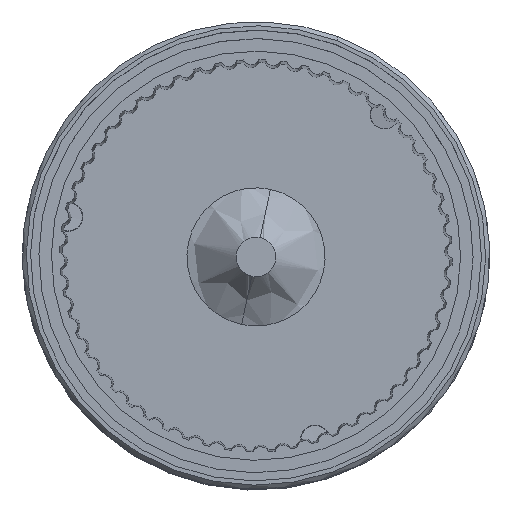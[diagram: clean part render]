
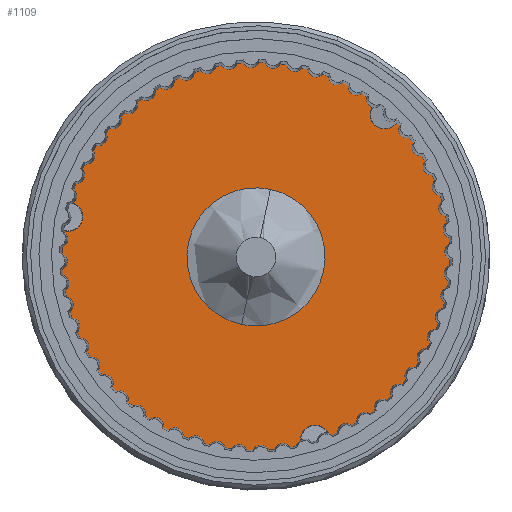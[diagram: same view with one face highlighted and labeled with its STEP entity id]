
A CAD part, top view. The second image highlights one B-rep face of the part: STEP entity #1109.
In plain terms, the highlighted planar face has unit normal (0, 0, -1).
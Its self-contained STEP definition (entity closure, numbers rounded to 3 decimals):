
#240 = ORIENTED_EDGE ( 'NONE', *, *, #937, .F. ) ;
#865 = ORIENTED_EDGE ( 'NONE', *, *, #1115, .T. ) ;
#868 = VERTEX_POINT ( 'NONE', #5378 ) ;
#937 = EDGE_CURVE ( 'NONE', #868, #938, #5500, .T. ) ;
#938 = VERTEX_POINT ( 'NONE', #5495 ) ;
#956 = EDGE_CURVE ( 'NONE', #957, #958, #5383, .T. ) ;
#957 = VERTEX_POINT ( 'NONE', #5467 ) ;
#958 = VERTEX_POINT ( 'NONE', #5466 ) ;
#970 = VERTEX_POINT ( 'NONE', #5399 ) ;
#976 = EDGE_CURVE ( 'NONE', #970, #977, #5558, .T. ) ;
#977 = VERTEX_POINT ( 'NONE', #5553 ) ;
#1002 = EDGE_CURVE ( 'NONE', #1003, #1011, #5626, .T. ) ;
#1003 = VERTEX_POINT ( 'NONE', #5621 ) ;
#1011 = VERTEX_POINT ( 'NONE', #5738 ) ;
#1074 = EDGE_CURVE ( 'NONE', #1011, #1003, #5808, .T. ) ;
#1079 = EDGE_LOOP ( 'NONE', ( #1080, #1111 ) ) ;
#1080 = ORIENTED_EDGE ( 'NONE', *, *, #1081, .T. ) ;
#1081 = EDGE_CURVE ( 'NONE', #1082, #1083, #5819, .T. ) ;
#1082 = VERTEX_POINT ( 'NONE', #5884 ) ;
#1083 = VERTEX_POINT ( 'NONE', #5883 ) ;
#1103 = EDGE_CURVE ( 'NONE', #958, #957, #5941, .T. ) ;
#1109 = ADVANCED_FACE ( 'NONE', ( #5928, #5927, #5926, #5925, #5924 ), #6067, .T. ) ;
#1111 = ORIENTED_EDGE ( 'NONE', *, *, #1112, .T. ) ;
#1112 = EDGE_CURVE ( 'NONE', #1083, #1082, #6066, .T. ) ;
#1113 = EDGE_LOOP ( 'NONE', ( #1120, #240 ) ) ;
#1114 = EDGE_CURVE ( 'NONE', #938, #868, #6057, .T. ) ;
#1115 = EDGE_CURVE ( 'NONE', #977, #970, #6052, .T. ) ;
#1120 = ORIENTED_EDGE ( 'NONE', *, *, #1114, .F. ) ;
#1123 = ORIENTED_EDGE ( 'NONE', *, *, #956, .T. ) ;
#1124 = EDGE_LOOP ( 'NONE', ( #1323, #1123 ) ) ;
#1125 = ORIENTED_EDGE ( 'NONE', *, *, #1074, .T. ) ;
#1153 = ORIENTED_EDGE ( 'NONE', *, *, #976, .T. ) ;
#1154 = EDGE_LOOP ( 'NONE', ( #1125, #1324 ) ) ;
#1155 = EDGE_LOOP ( 'NONE', ( #865, #1153 ) ) ;
#1323 = ORIENTED_EDGE ( 'NONE', *, *, #1103, .T. ) ;
#1324 = ORIENTED_EDGE ( 'NONE', *, *, #1002, .T. ) ;
#5378 = CARTESIAN_POINT ( 'NONE',  ( 5.613, 37.481, -118.95 ) ) ;
#5383 = CIRCLE ( 'NONE', #5471, 1.75 ) ;
#5399 = CARTESIAN_POINT ( 'NONE',  ( 31.372, -0.096, -118.95 ) ) ;
#5466 = CARTESIAN_POINT ( 'NONE',  ( 41.422, 38.493, -118.95 ) ) ;
#5467 = CARTESIAN_POINT ( 'NONE',  ( 39.076, 35.895, -118.95 ) ) ;
#5468 = DIRECTION ( 'NONE',  ( 0.67, 0.742, 0. ) ) ;
#5469 = DIRECTION ( 'NONE',  ( 0., 0., 1. ) ) ;
#5470 = CARTESIAN_POINT ( 'NONE',  ( 40.249, 37.194, -118.95 ) ) ;
#5471 = AXIS2_PLACEMENT_3D ( 'NONE', #5470, #5469, #5468 ) ;
#5495 = CARTESIAN_POINT ( 'NONE',  ( 44.055, 2.767, -118.95 ) ) ;
#5496 = DIRECTION ( 'NONE',  ( 0.67, 0.742, 0. ) ) ;
#5497 = DIRECTION ( 'NONE',  ( 0., 0., 1. ) ) ;
#5498 = CARTESIAN_POINT ( 'NONE',  ( 24.834, 20.124, -118.95 ) ) ;
#5499 = AXIS2_PLACEMENT_3D ( 'NONE', #5498, #5497, #5496 ) ;
#5500 = CIRCLE ( 'NONE', #5499, 25.898 ) ;
#5553 = CARTESIAN_POINT ( 'NONE',  ( 32.449, -3.426, -118.95 ) ) ;
#5554 = DIRECTION ( 'NONE',  ( 0.308, -0.952, 0. ) ) ;
#5555 = DIRECTION ( 'NONE',  ( 0., 0., 1. ) ) ;
#5556 = CARTESIAN_POINT ( 'NONE',  ( 31.91, -1.761, -118.95 ) ) ;
#5557 = AXIS2_PLACEMENT_3D ( 'NONE', #5556, #5555, #5554 ) ;
#5558 = CIRCLE ( 'NONE', #5557, 1.75 ) ;
#5621 = CARTESIAN_POINT ( 'NONE',  ( 4.055, 24.572, -118.95 ) ) ;
#5622 = DIRECTION ( 'NONE',  ( -0.978, 0.209, 0. ) ) ;
#5623 = DIRECTION ( 'NONE',  ( 0., 0., 1. ) ) ;
#5624 = CARTESIAN_POINT ( 'NONE',  ( 2.344, 24.938, -118.95 ) ) ;
#5625 = AXIS2_PLACEMENT_3D ( 'NONE', #5624, #5623, #5622 ) ;
#5626 = CIRCLE ( 'NONE', #5625, 1.75 ) ;
#5738 = CARTESIAN_POINT ( 'NONE',  ( 0.633, 25.304, -118.95 ) ) ;
#5764 = DIRECTION ( 'NONE',  ( -0.978, 0.209, 0. ) ) ;
#5765 = DIRECTION ( 'NONE',  ( 0., 0., 1. ) ) ;
#5766 = CARTESIAN_POINT ( 'NONE',  ( 2.344, 24.938, -118.95 ) ) ;
#5767 = AXIS2_PLACEMENT_3D ( 'NONE', #5766, #5765, #5764 ) ;
#5808 = CIRCLE ( 'NONE', #5767, 1.75 ) ;
#5819 = CIRCLE ( 'NONE', #5888, 8.273 ) ;
#5883 = CARTESIAN_POINT ( 'NONE',  ( 19.29, 13.983, -118.95 ) ) ;
#5884 = CARTESIAN_POINT ( 'NONE',  ( 30.379, 26.264, -118.95 ) ) ;
#5885 = DIRECTION ( 'NONE',  ( 0.67, 0.742, 0. ) ) ;
#5886 = DIRECTION ( 'NONE',  ( 0., 0., 1. ) ) ;
#5887 = CARTESIAN_POINT ( 'NONE',  ( 24.834, 20.124, -118.95 ) ) ;
#5888 = AXIS2_PLACEMENT_3D ( 'NONE', #5887, #5886, #5885 ) ;
#5924 = FACE_BOUND ( 'NONE', #1154, .T. ) ;
#5925 = FACE_BOUND ( 'NONE', #1155, .T. ) ;
#5926 = FACE_BOUND ( 'NONE', #1124, .T. ) ;
#5927 = FACE_OUTER_BOUND ( 'NONE', #1113, .T. ) ;
#5928 = FACE_BOUND ( 'NONE', #1079, .T. ) ;
#5937 = DIRECTION ( 'NONE',  ( 0.67, 0.742, 0. ) ) ;
#5938 = DIRECTION ( 'NONE',  ( 0., 0., 1. ) ) ;
#5939 = CARTESIAN_POINT ( 'NONE',  ( 40.249, 37.194, -118.95 ) ) ;
#5940 = AXIS2_PLACEMENT_3D ( 'NONE', #5939, #5938, #5937 ) ;
#5941 = CIRCLE ( 'NONE', #5940, 1.75 ) ;
#6048 = DIRECTION ( 'NONE',  ( 0.308, -0.952, 0. ) ) ;
#6049 = DIRECTION ( 'NONE',  ( 0., 0., 1. ) ) ;
#6050 = CARTESIAN_POINT ( 'NONE',  ( 31.91, -1.761, -118.95 ) ) ;
#6051 = AXIS2_PLACEMENT_3D ( 'NONE', #6050, #6049, #6048 ) ;
#6052 = CIRCLE ( 'NONE', #6051, 1.75 ) ;
#6053 = DIRECTION ( 'NONE',  ( 0.67, 0.742, 0. ) ) ;
#6054 = DIRECTION ( 'NONE',  ( 0., 0., 1. ) ) ;
#6055 = CARTESIAN_POINT ( 'NONE',  ( 24.834, 20.124, -118.95 ) ) ;
#6056 = AXIS2_PLACEMENT_3D ( 'NONE', #6055, #6054, #6053 ) ;
#6057 = CIRCLE ( 'NONE', #6056, 25.898 ) ;
#6058 = DIRECTION ( 'NONE',  ( 0.67, 0.742, 0. ) ) ;
#6059 = DIRECTION ( 'NONE',  ( 0., 0., 1. ) ) ;
#6060 = CARTESIAN_POINT ( 'NONE',  ( 24.834, 20.124, -118.95 ) ) ;
#6061 = AXIS2_PLACEMENT_3D ( 'NONE', #6060, #6059, #6058 ) ;
#6062 = DIRECTION ( 'NONE',  ( 0.67, 0.742, 0. ) ) ;
#6063 = DIRECTION ( 'NONE',  ( 0., 0., -1. ) ) ;
#6064 = CARTESIAN_POINT ( 'NONE',  ( 36.285, 32.804, -118.95 ) ) ;
#6065 = AXIS2_PLACEMENT_3D ( 'NONE', #6064, #6063, #6062 ) ;
#6066 = CIRCLE ( 'NONE', #6061, 8.273 ) ;
#6067 = PLANE ( 'NONE',  #6065 ) ;
